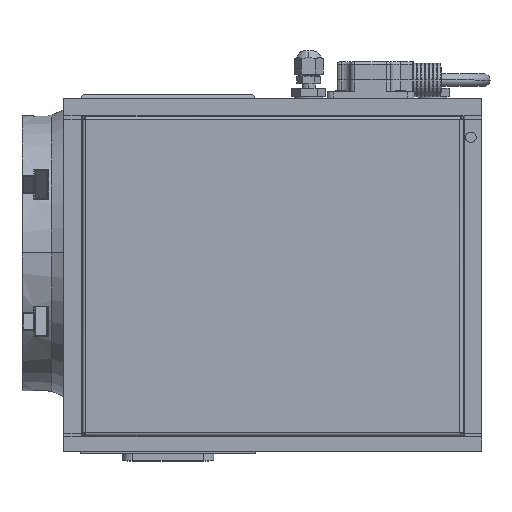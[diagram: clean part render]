
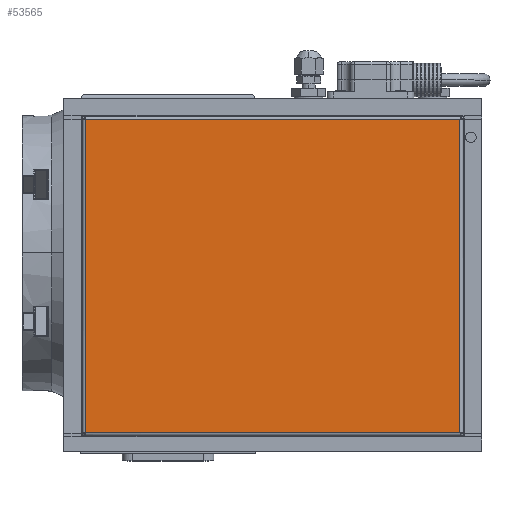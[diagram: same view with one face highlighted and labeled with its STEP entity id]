
A CAD part, top view. The second image highlights one B-rep face of the part: STEP entity #53565.
In plain terms, the highlighted planar face has unit normal (0, 0, 1).
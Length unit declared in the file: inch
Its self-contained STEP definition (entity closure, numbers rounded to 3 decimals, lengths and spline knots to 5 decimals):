
#231 = ORIENTED_EDGE ( 'NONE', *, *, #64335, .T. ) ;
#2417 = VERTEX_POINT ( 'NONE', #54476 ) ;
#3709 = CARTESIAN_POINT ( 'NONE',  ( -2.4738, 10.00323, 7.15325 ) ) ;
#6976 = CARTESIAN_POINT ( 'NONE',  ( 8.7438, 9.9863, 7.15325 ) ) ;
#8842 = EDGE_CURVE ( 'NONE', #45431, #2417, #14705, .T. ) ;
#10105 = VECTOR ( 'NONE', #46916, 39.37008 ) ;
#10842 = AXIS2_PLACEMENT_3D ( 'NONE', #27145, #21279, #45129 ) ;
#11047 = PLANE ( 'NONE',  #10842 ) ;
#13014 = VECTOR ( 'NONE', #69064, 39.37008 ) ;
#14287 = DIRECTION ( 'NONE',  ( 1., 0., 0. ) ) ;
#14428 = VECTOR ( 'NONE', #14287, 39.37008 ) ;
#14705 = LINE ( 'NONE', #20196, #14428 ) ;
#17704 = LINE ( 'NONE', #41186, #21306 ) ;
#19236 = CARTESIAN_POINT ( 'NONE',  ( -2.4738, 0.6087, 7.15325 ) ) ;
#20196 = CARTESIAN_POINT ( 'NONE',  ( -2.49073, 0.6087, 7.15325 ) ) ;
#21279 = DIRECTION ( 'NONE',  ( 0., 0., -1. ) ) ;
#21306 = VECTOR ( 'NONE', #34930, 39.37008 ) ;
#24228 = ORIENTED_EDGE ( 'NONE', *, *, #8842, .T. ) ;
#25441 = ORIENTED_EDGE ( 'NONE', *, *, #49981, .T. ) ;
#27145 = CARTESIAN_POINT ( 'NONE',  ( 3.135, 5.2975, 7.15325 ) ) ;
#27532 = FACE_OUTER_BOUND ( 'NONE', #39537, .T. ) ;
#28389 = VERTEX_POINT ( 'NONE', #69792 ) ;
#34930 = DIRECTION ( 'NONE',  ( 0., 1., 0. ) ) ;
#39537 = EDGE_LOOP ( 'NONE', ( #24228, #231, #68818, #25441 ) ) ;
#41186 = CARTESIAN_POINT ( 'NONE',  ( 8.7438, 0.59177, 7.15325 ) ) ;
#45129 = DIRECTION ( 'NONE',  ( -1., 0., 0. ) ) ;
#45431 = VERTEX_POINT ( 'NONE', #19236 ) ;
#46916 = DIRECTION ( 'NONE',  ( -1., 0., 0. ) ) ;
#49981 = EDGE_CURVE ( 'NONE', #28389, #45431, #57344, .T. ) ;
#51644 = LINE ( 'NONE', #58677, #10105 ) ;
#53233 = VERTEX_POINT ( 'NONE', #6976 ) ;
#53565 = ADVANCED_FACE ( 'NONE', ( #27532 ), #11047, .F. ) ;
#54476 = CARTESIAN_POINT ( 'NONE',  ( 8.7438, 0.6087, 7.15325 ) ) ;
#57344 = LINE ( 'NONE', #3709, #13014 ) ;
#58677 = CARTESIAN_POINT ( 'NONE',  ( 8.76073, 9.9863, 7.15325 ) ) ;
#64335 = EDGE_CURVE ( 'NONE', #2417, #53233, #17704, .T. ) ;
#68818 = ORIENTED_EDGE ( 'NONE', *, *, #74644, .T. ) ;
#69064 = DIRECTION ( 'NONE',  ( 0., -1., 0. ) ) ;
#69792 = CARTESIAN_POINT ( 'NONE',  ( -2.4738, 9.9863, 7.15325 ) ) ;
#74644 = EDGE_CURVE ( 'NONE', #53233, #28389, #51644, .T. ) ;
